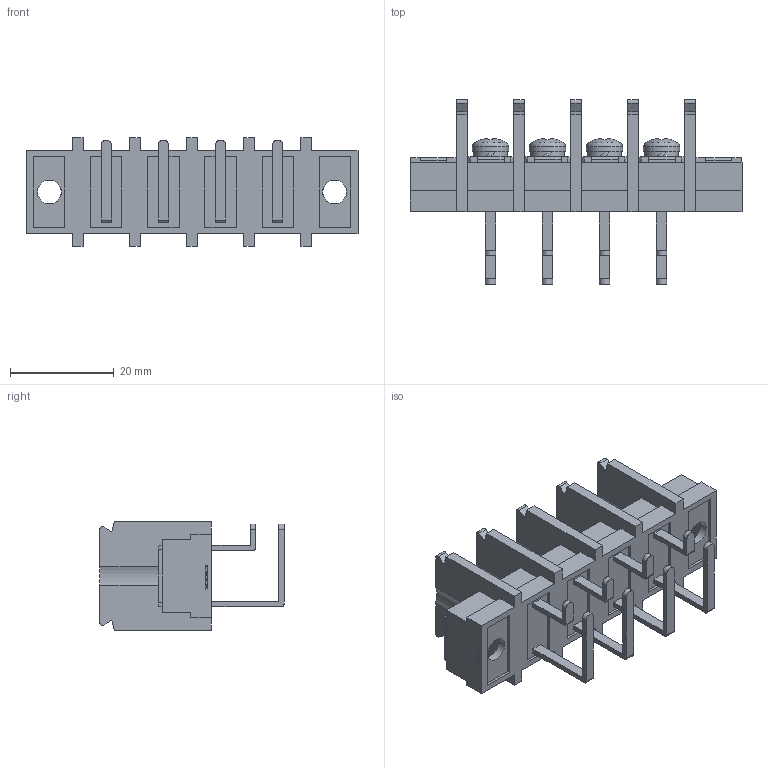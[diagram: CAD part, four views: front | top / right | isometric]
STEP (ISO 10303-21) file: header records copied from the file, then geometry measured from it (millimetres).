
FILE_DESCRIPTION(/* description */ ('Alibre Inc.'),/* implementation_level */ '2;1');
FILE_NAME(/* name */ 'export0',/* time_stamp */ '2015-12-02T12:58:34+09:00',/* author */ (''),/* organization */ (''),/* preprocessor_version */ 'ST-DEVELOPER v14',/* originating_system */ 'Alibre',/* authorisation */ '');
FILE_SCHEMA (('CONFIG_CONTROL_DESIGN'));
Length unit declared in the file: centimetre
Products named in the file (1): ID_1
Bounding box: 64 x 35.5 x 21 mm (x, y, z)
Volume: 10394.9 mm3; surface area: 11869.9 mm2
Topology: 1 solids, 17 shells, 902 faces, 2462 edges, 1634 vertices
Faces by surface type: plane 702, bspline 104, cylinder 68, cone 20, torus 4, sphere 4
Full cylindrical faces by diameter (mm): 4 x4, 4.55 x2, 4.6 x2, 6.5 x4, 7 x4
Entity records: 27263 total; most frequent: CARTESIAN_POINT 5934, ORIENTED_EDGE 4880, DIRECTION 3239, EDGE_CURVE 2440, VECTOR 1901, LINE 1901, VERTEX_POINT 1632, EDGE_LOOP 998
